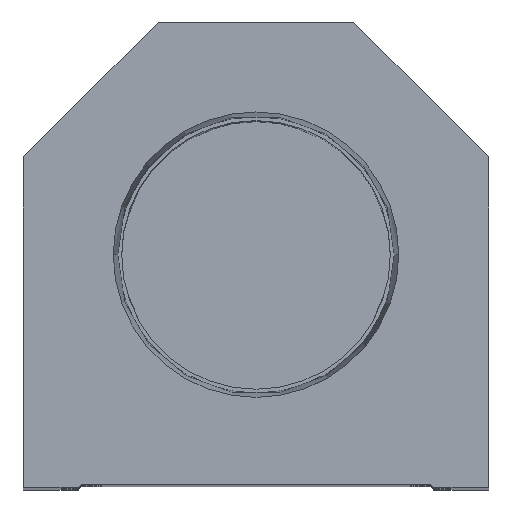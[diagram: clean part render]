
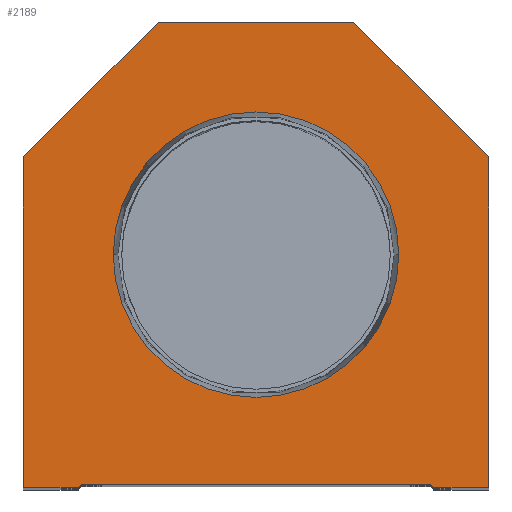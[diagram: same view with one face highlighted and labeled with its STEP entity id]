
A CAD part, top view. The second image highlights one B-rep face of the part: STEP entity #2189.
In plain terms, the highlighted planar face has unit normal (0, 0, 1).
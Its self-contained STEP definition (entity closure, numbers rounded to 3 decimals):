
#15 = VECTOR ( 'NONE', #270, 1000. ) ;
#173 = CARTESIAN_POINT ( 'NONE',  ( 38.1, 54.1, 0. ) ) ;
#270 = DIRECTION ( 'NONE',  ( 1., 0., 0. ) ) ;
#400 = DIRECTION ( 'NONE',  ( 1., 0., 0. ) ) ;
#547 = ORIENTED_EDGE ( 'NONE', *, *, #15437, .T. ) ;
#548 = EDGE_CURVE ( 'NONE', #18646, #14376, #9763, .T. ) ;
#632 = EDGE_CURVE ( 'NONE', #10313, #5443, #14409, .T. ) ;
#1012 = DIRECTION ( 'NONE',  ( -0.707, -0.707, 0. ) ) ;
#1113 = EDGE_LOOP ( 'NONE', ( #6590, #2342 ) ) ;
#1306 = ORIENTED_EDGE ( 'NONE', *, *, #2347, .T. ) ;
#1388 = LINE ( 'NONE', #9653, #10295 ) ;
#2022 = ORIENTED_EDGE ( 'NONE', *, *, #13801, .T. ) ;
#2091 = VERTEX_POINT ( 'NONE', #2100 ) ;
#2100 = CARTESIAN_POINT ( 'NONE',  ( -38.1, 54.1, 0. ) ) ;
#2189 = ADVANCED_FACE ( 'NONE', ( #19636, #5422 ), #11739, .T. ) ;
#2342 = ORIENTED_EDGE ( 'NONE', *, *, #11801, .F. ) ;
#2347 = EDGE_CURVE ( 'NONE', #14376, #11360, #10048, .T. ) ;
#2726 = DIRECTION ( 'NONE',  ( 1., 0., 0. ) ) ;
#2814 = VECTOR ( 'NONE', #1012, 1000. ) ;
#3671 = CIRCLE ( 'NONE', #4015, 23.374 ) ;
#3789 = VECTOR ( 'NONE', #20105, 1000. ) ;
#3834 = CARTESIAN_POINT ( 'NONE',  ( 16., 76.2, 0. ) ) ;
#3950 = CARTESIAN_POINT ( 'NONE',  ( 14.55, 14.55, 0. ) ) ;
#4015 = AXIS2_PLACEMENT_3D ( 'NONE', #8328, #5199, #400 ) ;
#4073 = LINE ( 'NONE', #3950, #16789 ) ;
#4172 = VERTEX_POINT ( 'NONE', #10410 ) ;
#4178 = CARTESIAN_POINT ( 'NONE',  ( -38.1, 0., 0. ) ) ;
#4261 = LINE ( 'NONE', #3834, #9729 ) ;
#4371 = EDGE_CURVE ( 'NONE', #11360, #10313, #4073, .T. ) ;
#4373 = EDGE_CURVE ( 'NONE', #2091, #9555, #15276, .T. ) ;
#4877 = CARTESIAN_POINT ( 'NONE',  ( 0., 38.1, 0. ) ) ;
#5199 = DIRECTION ( 'NONE',  ( 0., 0., 1. ) ) ;
#5253 = ORIENTED_EDGE ( 'NONE', *, *, #4371, .T. ) ;
#5355 = EDGE_CURVE ( 'NONE', #5443, #16169, #7456, .T. ) ;
#5422 = FACE_OUTER_BOUND ( 'NONE', #13637, .T. ) ;
#5443 = VERTEX_POINT ( 'NONE', #9583 ) ;
#5590 = AXIS2_PLACEMENT_3D ( 'NONE', #4877, #20548, #2726 ) ;
#6030 = CARTESIAN_POINT ( 'NONE',  ( 28.6, 0., 0. ) ) ;
#6070 = VERTEX_POINT ( 'NONE', #15365 ) ;
#6130 = DIRECTION ( 'NONE',  ( 1., 0., 0. ) ) ;
#6144 = CARTESIAN_POINT ( 'NONE',  ( -29.1, 0., 0. ) ) ;
#6324 = AXIS2_PLACEMENT_3D ( 'NONE', #16735, #15587, #13621 ) ;
#6539 = DIRECTION ( 'NONE',  ( -0.707, 0.707, 0. ) ) ;
#6590 = ORIENTED_EDGE ( 'NONE', *, *, #17288, .F. ) ;
#6648 = CARTESIAN_POINT ( 'NONE',  ( 38.1, 54.1, 0. ) ) ;
#6666 = VECTOR ( 'NONE', #11416, 1000. ) ;
#6943 = DIRECTION ( 'NONE',  ( -1., 0., 0. ) ) ;
#7386 = LINE ( 'NONE', #18350, #2814 ) ;
#7456 = LINE ( 'NONE', #13777, #3789 ) ;
#7933 = CARTESIAN_POINT ( 'NONE',  ( -38.1, 0., 0. ) ) ;
#8046 = VECTOR ( 'NONE', #6130, 1000. ) ;
#8328 = CARTESIAN_POINT ( 'NONE',  ( 0., 38.1, 0. ) ) ;
#8646 = DIRECTION ( 'NONE',  ( 0., -1., 0. ) ) ;
#8739 = CARTESIAN_POINT ( 'NONE',  ( 16., 76.2, 0. ) ) ;
#8949 = DIRECTION ( 'NONE',  ( 0.707, -0.707, 0. ) ) ;
#9555 = VERTEX_POINT ( 'NONE', #7933 ) ;
#9583 = CARTESIAN_POINT ( 'NONE',  ( 38.1, 0., 0. ) ) ;
#9653 = CARTESIAN_POINT ( 'NONE',  ( -28.6, 0., 0. ) ) ;
#9729 = VECTOR ( 'NONE', #6943, 1000. ) ;
#9746 = LINE ( 'NONE', #173, #11610 ) ;
#9763 = LINE ( 'NONE', #16506, #6666 ) ;
#10048 = LINE ( 'NONE', #19408, #15 ) ;
#10054 = ORIENTED_EDGE ( 'NONE', *, *, #20355, .T. ) ;
#10295 = VECTOR ( 'NONE', #16984, 1000. ) ;
#10313 = VERTEX_POINT ( 'NONE', #12966 ) ;
#10410 = CARTESIAN_POINT ( 'NONE',  ( -23.374, 38.1, 0. ) ) ;
#10499 = CARTESIAN_POINT ( 'NONE',  ( -16., 76.2, 0. ) ) ;
#11360 = VERTEX_POINT ( 'NONE', #13475 ) ;
#11416 = DIRECTION ( 'NONE',  ( 0.707, 0.707, 0. ) ) ;
#11443 = ORIENTED_EDGE ( 'NONE', *, *, #548, .T. ) ;
#11610 = VECTOR ( 'NONE', #6539, 1000. ) ;
#11739 = PLANE ( 'NONE',  #6324 ) ;
#11801 = EDGE_CURVE ( 'NONE', #4172, #6070, #19228, .T. ) ;
#11912 = ORIENTED_EDGE ( 'NONE', *, *, #17050, .T. ) ;
#12966 = CARTESIAN_POINT ( 'NONE',  ( 29.1, 0., 0. ) ) ;
#13154 = VECTOR ( 'NONE', #8646, 1000. ) ;
#13475 = CARTESIAN_POINT ( 'NONE',  ( 28.6, 0.5, 0. ) ) ;
#13621 = DIRECTION ( 'NONE',  ( 1., 0., 0. ) ) ;
#13637 = EDGE_LOOP ( 'NONE', ( #11912, #11443, #1306, #5253, #17209, #19400, #2022, #10054, #547, #18920 ) ) ;
#13777 = CARTESIAN_POINT ( 'NONE',  ( 38.1, 0., 0. ) ) ;
#13801 = EDGE_CURVE ( 'NONE', #16169, #17683, #9746, .T. ) ;
#14376 = VERTEX_POINT ( 'NONE', #18889 ) ;
#14409 = LINE ( 'NONE', #6030, #8046 ) ;
#15276 = LINE ( 'NONE', #4178, #13154 ) ;
#15365 = CARTESIAN_POINT ( 'NONE',  ( 23.374, 38.1, 0. ) ) ;
#15437 = EDGE_CURVE ( 'NONE', #15947, #2091, #7386, .T. ) ;
#15587 = DIRECTION ( 'NONE',  ( 0., 0., 1. ) ) ;
#15947 = VERTEX_POINT ( 'NONE', #10499 ) ;
#16169 = VERTEX_POINT ( 'NONE', #6648 ) ;
#16506 = CARTESIAN_POINT ( 'NONE',  ( -14.55, 14.55, 0. ) ) ;
#16735 = CARTESIAN_POINT ( 'NONE',  ( 0., 0., 0. ) ) ;
#16789 = VECTOR ( 'NONE', #8949, 1000. ) ;
#16984 = DIRECTION ( 'NONE',  ( 1., 0., 0. ) ) ;
#17050 = EDGE_CURVE ( 'NONE', #9555, #18646, #1388, .T. ) ;
#17209 = ORIENTED_EDGE ( 'NONE', *, *, #632, .T. ) ;
#17288 = EDGE_CURVE ( 'NONE', #6070, #4172, #3671, .T. ) ;
#17683 = VERTEX_POINT ( 'NONE', #8739 ) ;
#18350 = CARTESIAN_POINT ( 'NONE',  ( -38.1, 54.1, 0. ) ) ;
#18646 = VERTEX_POINT ( 'NONE', #6144 ) ;
#18889 = CARTESIAN_POINT ( 'NONE',  ( -28.6, 0.5, 0. ) ) ;
#18920 = ORIENTED_EDGE ( 'NONE', *, *, #4373, .T. ) ;
#19228 = CIRCLE ( 'NONE', #5590, 23.374 ) ;
#19400 = ORIENTED_EDGE ( 'NONE', *, *, #5355, .T. ) ;
#19408 = CARTESIAN_POINT ( 'NONE',  ( -28.6, 0.5, 0. ) ) ;
#19636 = FACE_BOUND ( 'NONE', #1113, .T. ) ;
#20105 = DIRECTION ( 'NONE',  ( 0., 1., 0. ) ) ;
#20355 = EDGE_CURVE ( 'NONE', #17683, #15947, #4261, .T. ) ;
#20548 = DIRECTION ( 'NONE',  ( 0., 0., 1. ) ) ;
